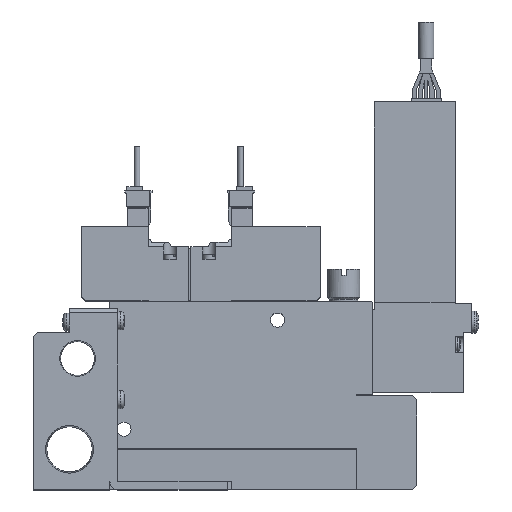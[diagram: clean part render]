
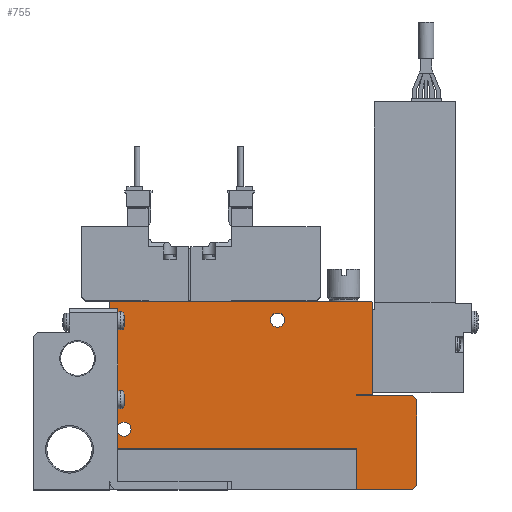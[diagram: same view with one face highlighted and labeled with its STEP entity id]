
A CAD part, top view. The second image highlights one B-rep face of the part: STEP entity #755.
In plain terms, the highlighted planar face has unit normal (0, 0, 1).
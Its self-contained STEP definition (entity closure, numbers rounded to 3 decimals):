
#755=ADVANCED_FACE('',(#1750,#1751,#1752),#1753,.F.);
#1750=FACE_OUTER_BOUND('',#3086,.T.);
#1751=FACE_BOUND('',#3087,.T.);
#1752=FACE_BOUND('',#3088,.T.);
#1753=PLANE('',#3089);
#3086=EDGE_LOOP('',(#6570,#6571,#6572,#6573,#6574,#6575,#6576,#6577,#6578,#6579,#6580,#6581,#6582,#6583));
#3087=EDGE_LOOP('',(#6584));
#3088=EDGE_LOOP('',(#6585));
#3089=AXIS2_PLACEMENT_3D('',#6586,#6587,#6588);
#6570=ORIENTED_EDGE('',*,*,#9156,.T.);
#6571=ORIENTED_EDGE('',*,*,#9118,.F.);
#6572=ORIENTED_EDGE('',*,*,#9149,.F.);
#6573=ORIENTED_EDGE('',*,*,#9157,.T.);
#6574=ORIENTED_EDGE('',*,*,#9158,.T.);
#6575=ORIENTED_EDGE('',*,*,#9098,.T.);
#6576=ORIENTED_EDGE('',*,*,#9159,.T.);
#6577=ORIENTED_EDGE('',*,*,#9135,.T.);
#6578=ORIENTED_EDGE('',*,*,#9160,.T.);
#6579=ORIENTED_EDGE('',*,*,#9161,.T.);
#6580=ORIENTED_EDGE('',*,*,#9162,.T.);
#6581=ORIENTED_EDGE('',*,*,#9139,.T.);
#6582=ORIENTED_EDGE('',*,*,#9142,.T.);
#6583=ORIENTED_EDGE('',*,*,#9094,.T.);
#6584=ORIENTED_EDGE('',*,*,#9163,.F.);
#6585=ORIENTED_EDGE('',*,*,#9164,.F.);
#6586=CARTESIAN_POINT('',(0.0,0.0,5.0));
#6587=DIRECTION('',(0.0,0.0,-1.0));
#6588=DIRECTION('',(0.0,-1.0,0.0));
#9094=EDGE_CURVE('',#11114,#11112,#11115,.T.);
#9098=EDGE_CURVE('',#11122,#11120,#11123,.T.);
#9118=EDGE_CURVE('',#11160,#11161,#11162,.T.);
#9135=EDGE_CURVE('',#11192,#11190,#11193,.T.);
#9139=EDGE_CURVE('',#11200,#11198,#11201,.T.);
#9142=EDGE_CURVE('',#11198,#11114,#11204,.T.);
#9149=EDGE_CURVE('',#11214,#11160,#11216,.T.);
#9156=EDGE_CURVE('',#11112,#11161,#11225,.T.);
#9157=EDGE_CURVE('',#11214,#11226,#11227,.T.);
#9158=EDGE_CURVE('',#11226,#11122,#11228,.T.);
#9159=EDGE_CURVE('',#11120,#11192,#11229,.T.);
#9160=EDGE_CURVE('',#11190,#11230,#11231,.T.);
#9161=EDGE_CURVE('',#11230,#11232,#11233,.T.);
#9162=EDGE_CURVE('',#11232,#11200,#11234,.T.);
#9163=EDGE_CURVE('',#11235,#11235,#11236,.T.);
#9164=EDGE_CURVE('',#11237,#11237,#11238,.T.);
#11112=VERTEX_POINT('',#14408);
#11114=VERTEX_POINT('',#14411);
#11115=LINE('',#14412,#14413);
#11120=VERTEX_POINT('',#14420);
#11122=VERTEX_POINT('',#14423);
#11123=LINE('',#14424,#14425);
#11160=VERTEX_POINT('',#14474);
#11161=VERTEX_POINT('',#14475);
#11162=LINE('',#14476,#14477);
#11190=VERTEX_POINT('',#14517);
#11192=VERTEX_POINT('',#14520);
#11193=LINE('',#14521,#14522);
#11198=VERTEX_POINT('',#14529);
#11200=VERTEX_POINT('',#14532);
#11201=LINE('',#14533,#14534);
#11204=LINE('',#14539,#14540);
#11214=VERTEX_POINT('',#14553);
#11216=LINE('',#14556,#14557);
#11225=LINE('',#14572,#14573);
#11226=VERTEX_POINT('',#14574);
#11227=LINE('',#14575,#14576);
#11228=LINE('',#14577,#14578);
#11229=LINE('',#14579,#14580);
#11230=VERTEX_POINT('',#14581);
#11231=LINE('',#14582,#14583);
#11232=VERTEX_POINT('',#14584);
#11233=LINE('',#14585,#14586);
#11234=LINE('',#14587,#14588);
#11235=VERTEX_POINT('',#14589);
#11236=CIRCLE('',#14590,1.75);
#11237=VERTEX_POINT('',#14591);
#11238=CIRCLE('',#14592,1.75);
#14408=CARTESIAN_POINT('',(0.0,46.4,5.0));
#14411=CARTESIAN_POINT('',(0.2,46.6,5.0));
#14412=CARTESIAN_POINT('',(0.2,46.6,5.0));
#14413=VECTOR('',#17514,1.0);
#14420=CARTESIAN_POINT('',(76.0,22.25,5.0));
#14423=CARTESIAN_POINT('',(76.0,1.0,5.0));
#14424=CARTESIAN_POINT('',(76.0,1.0,5.0));
#14425=VECTOR('',#17518,1.0);
#14474=CARTESIAN_POINT('',(61.1,10.1,5.0));
#14475=CARTESIAN_POINT('',(0.0,10.1,5.0));
#14476=CARTESIAN_POINT('',(61.1,10.1,5.0));
#14477=VECTOR('',#17552,1.0);
#14517=CARTESIAN_POINT('',(61.0,23.25,5.0));
#14520=CARTESIAN_POINT('',(75.0,23.25,5.0));
#14521=CARTESIAN_POINT('',(75.0,23.25,5.0));
#14522=VECTOR('',#17575,1.0);
#14529=CARTESIAN_POINT('',(64.8,46.6,5.0));
#14532=CARTESIAN_POINT('',(65.0,46.4,5.0));
#14533=CARTESIAN_POINT('',(65.0,46.4,5.0));
#14534=VECTOR('',#17579,1.0);
#14539=CARTESIAN_POINT('',(64.8,46.6,5.0));
#14540=VECTOR('',#17582,1.0);
#14553=CARTESIAN_POINT('',(61.1,0.0,5.0));
#14556=CARTESIAN_POINT('',(61.1,0.0,5.0));
#14557=VECTOR('',#17593,1.0);
#14572=CARTESIAN_POINT('',(0.0,46.4,5.0));
#14573=VECTOR('',#17600,1.0);
#14574=CARTESIAN_POINT('',(75.0,0.0,5.0));
#14575=CARTESIAN_POINT('',(0.0,0.0,5.0));
#14576=VECTOR('',#17601,1.0);
#14577=CARTESIAN_POINT('',(75.0,0.0,5.0));
#14578=VECTOR('',#17602,1.0);
#14579=CARTESIAN_POINT('',(76.0,22.25,5.0));
#14580=VECTOR('',#17603,1.0);
#14581=CARTESIAN_POINT('',(61.0,23.5,5.0));
#14582=CARTESIAN_POINT('',(61.0,23.25,5.0));
#14583=VECTOR('',#17604,1.0);
#14584=CARTESIAN_POINT('',(65.0,23.5,5.0));
#14585=CARTESIAN_POINT('',(61.0,23.5,5.0));
#14586=VECTOR('',#17605,1.0);
#14587=CARTESIAN_POINT('',(65.0,23.5,5.0));
#14588=VECTOR('',#17606,1.0);
#14589=CARTESIAN_POINT('',(5.25,15.0,5.0));
#14590=AXIS2_PLACEMENT_3D('',#17607,#17608,#17609);
#14591=CARTESIAN_POINT('',(43.25,42.0,5.0));
#14592=AXIS2_PLACEMENT_3D('',#17610,#17611,#17612);
#17514=DIRECTION('',(-0.707,-0.707,0.0));
#17518=DIRECTION('',(0.0,1.0,0.0));
#17552=DIRECTION('',(-1.0,0.0,0.0));
#17575=DIRECTION('',(-1.0,0.0,0.0));
#17579=DIRECTION('',(-0.707,0.707,0.0));
#17582=DIRECTION('',(-1.0,0.0,0.0));
#17593=DIRECTION('',(0.0,1.0,0.0));
#17600=DIRECTION('',(0.0,-1.0,0.0));
#17601=DIRECTION('',(1.0,0.0,0.0));
#17602=DIRECTION('',(0.707,0.707,0.0));
#17603=DIRECTION('',(-0.707,0.707,0.0));
#17604=DIRECTION('',(0.0,1.0,0.0));
#17605=DIRECTION('',(1.0,0.,0.0));
#17606=DIRECTION('',(0.0,1.0,0.0));
#17607=CARTESIAN_POINT('',(3.5,15.0,5.0));
#17608=DIRECTION('',(0.0,0.0,1.0));
#17609=DIRECTION('',(1.0,0.0,0.0));
#17610=CARTESIAN_POINT('',(41.5,42.0,5.0));
#17611=DIRECTION('',(0.0,0.0,1.0));
#17612=DIRECTION('',(1.0,0.0,0.0));
